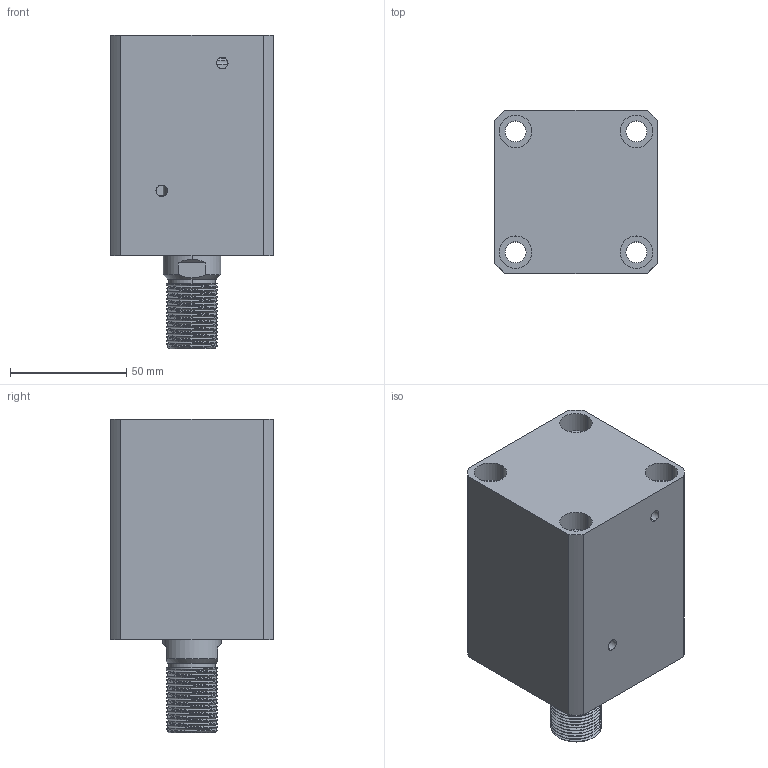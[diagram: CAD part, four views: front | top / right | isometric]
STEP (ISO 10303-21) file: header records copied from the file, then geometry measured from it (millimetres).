
FILE_DESCRIPTION (( 'STEP AP214' ), '1' );
FILE_NAME ('chtb-sdma40x40w_asm.STEP', '2018-06-06T01:30:28', ( 'Windows' ), ( 'Microsoft' ), 'SwSTEP 2.0', 'SolidWorks 2015', '' );
FILE_SCHEMA (( 'AUTOMOTIVE_DESIGN' ));
Length unit declared in the file: millimetre
Products named in the file (4): CHTB-SDMA40X40NBT; CHTB-SD40X40WHSG; CHTB-SD40QG; chtb-sdma40x40w_asm
Assembly tree (3 placements, depth 2):
  chtb-sdma40x40w_asm
    CHTB-SD40QG
    CHTB-SD40X40WHSG
    CHTB-SDMA40X40NBT
Bounding box: 70 x 70 x 135 mm (x, y, z)
Volume: 410218.8 mm3; surface area: 85836.3 mm2
Topology: 3 solids, 4 shells, 203 faces, 545 edges, 363 vertices
Faces by surface type: cylinder 122, plane 40, bspline 16, torus 14, cone 11
Entity records: 13587 total; most frequent: CARTESIAN_POINT 8658, ORIENTED_EDGE 1078, DIRECTION 914, EDGE_CURVE 539, AXIS2_PLACEMENT_3D 378, VERTEX_POINT 363, EDGE_LOOP 240, ADVANCED_FACE 203
